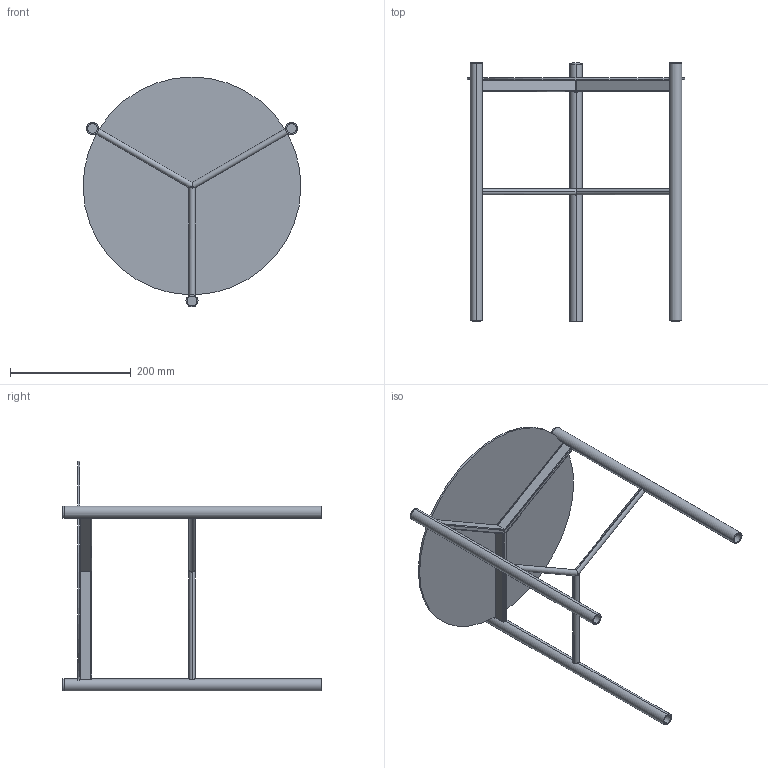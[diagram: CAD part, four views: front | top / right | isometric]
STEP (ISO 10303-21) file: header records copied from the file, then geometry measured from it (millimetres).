
FILE_DESCRIPTION (( 'STEP AP203' ), '1' );
FILE_NAME ('J501S.STEP', '2024-08-06T11:25:06', ( '' ), ( '' ), 'SwSTEP 2.0', 'SolidWorks 2022', '' );
FILE_SCHEMA (( 'CONFIG_CONTROL_DESIGN' ));
Length unit declared in the file: millimetre
Products named in the file (2): JXXXS00000000-00-jack metallo grezzo tutte le misure_J6B000001-JACK TAVOLINO D.36x41h<A macchina>; J501S
Assembly tree (1 placements, depth 2):
  J501S
    JXXXS00000000-00-jack metallo grezzo tutte le misure_J6B000001-JACK TAVOLINO D.36x41h<A macchina>
Bounding box: 359.95 x 427 x 380.07 mm (x, y, z)
Volume: 493870.3 mm3; surface area: 439448.3 mm2
Topology: 13 solids, 13 shells, 121 faces, 287 edges, 190 vertices
Faces by surface type: cylinder 71, plane 50
Entity records: 4317 total; most frequent: CARTESIAN_POINT 1434, ORIENTED_EDGE 574, DIRECTION 521, EDGE_CURVE 287, VERTEX_POINT 190, AXIS2_PLACEMENT_3D 187, LINE 147, VECTOR 147
